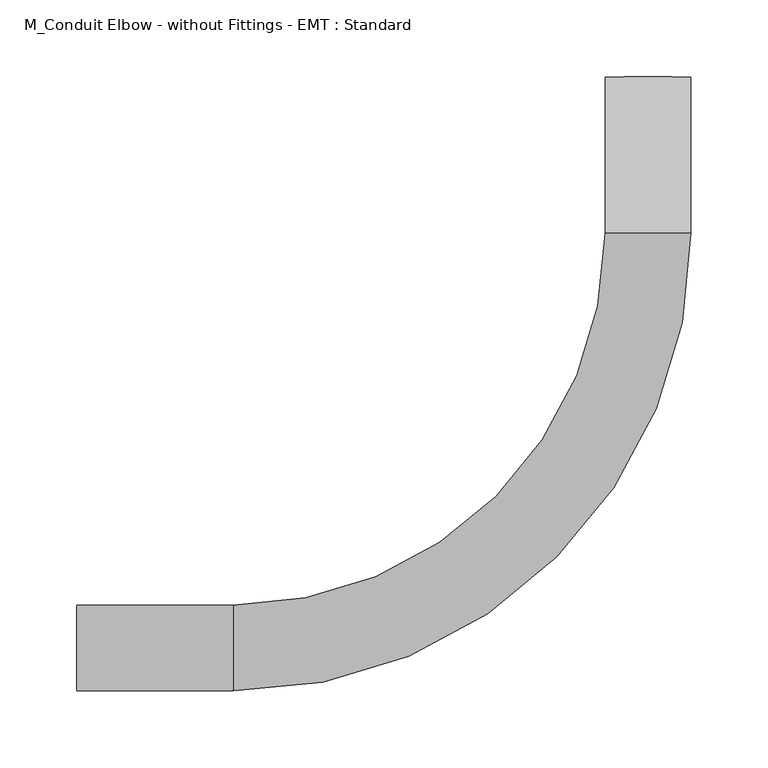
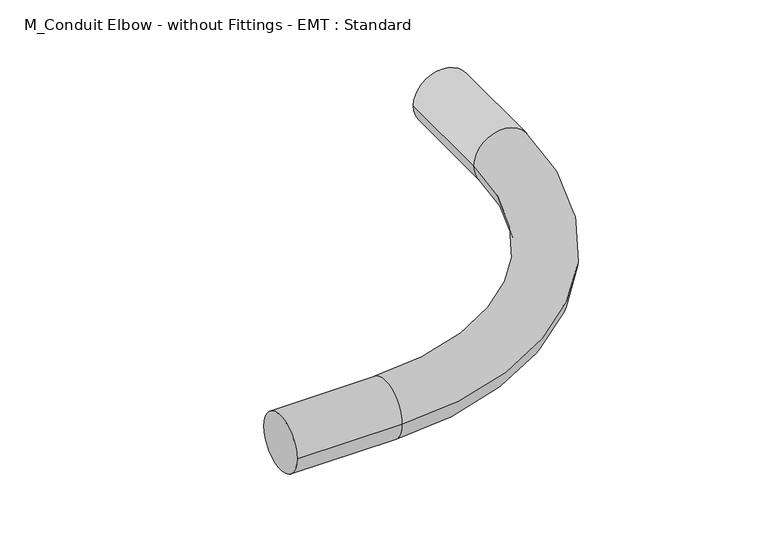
"""IFC4 building model written with IfcOpenShell, lengths in millimetres: cable carrier fitting geometry, M_Conduit Elbow - without Fittings - EMT : Standard."""

from ifc_helpers import new_model, si_unit, point, frame, origin, place, context, project, spatial, circle_curve, ellipse_curve, trimmed, source, transform, mapped, element, save
from ifc_brep_helpers import plane_surface, cylinder_surface, revolved_surface, advanced_brep


def m_conduit_elbow_without_fittings_emt_standard_11a9927b(model_context):
    return source(origin(), model_context, "Body", "AdvancedBrep", [
        advanced_brep(
        [(-370.8, -27.9019, 0.0), (-370.8, 27.9019, 0.0), (-269.2, -27.9019, 0.0), (-269.2, 27.9019, 0.0), (-27.9019, 269.2, 0.0), (27.9019, 269.2, 0.0), (27.9019, 370.8, 0.0), (-27.9019, 370.8, 0.0)],
        [
            (0, 1, circle_curve(frame((-370.8, 0.0, 0.0), z_axis=(-1.0, 0.0, 0.0), x_axis=(0.0, 1.0, 0.0)), 27.9019)),
            (1, 0, circle_curve(frame((-370.8, 0.0, 0.0), z_axis=(-1.0, 0.0, 0.0), x_axis=(0.0, 1.0, 0.0)), 27.9019)),
            (0, 2),
            (2, 3, circle_curve(frame((-269.2, 0.0, 0.0), z_axis=(-1.0, 0.0, 0.0), x_axis=(0.0, 1.0, 0.0)), 27.9019)),
            (3, 1),
            (3, 2, circle_curve(frame((-269.2, 0.0, 0.0), z_axis=(-1.0, 0.0, 0.0), x_axis=(0.0, 1.0, 0.0)), 27.9019)),
            (4, 3, circle_curve(frame((-269.2, 269.2, 0.0), z_axis=(0.0, 0.0, -1.0), x_axis=(0.0, -1.0, 0.0)), 241.2981)),
            (2, 5, circle_curve(frame((-269.2, 269.2, 0.0), z_axis=(0.0, 0.0, 1.0), x_axis=(0.0, -1.0, 0.0)), 297.1019)),
            (5, 4, circle_curve(frame((0.0, 269.2, 0.0), z_axis=(0.0, -1.0, 0.0), x_axis=(-1.0, 0.0, 0.0)), 27.9019)),
            (4, 5, circle_curve(frame((0.0, 269.2, 0.0), z_axis=(0.0, -1.0, 0.0), x_axis=(-1.0, 0.0, 0.0)), 27.9019)),
            (6, 7, circle_curve(frame((0.0, 370.8, 0.0), z_axis=(0.0, 1.0, 0.0), x_axis=(-1.0, 0.0, 0.0)), 27.9019)),
            (7, 6, circle_curve(frame((0.0, 370.8, 0.0), z_axis=(0.0, 1.0, 0.0), x_axis=(-1.0, 0.0, 0.0)), 27.9019)),
            (5, 6),
            (7, 4),
        ],
        [
            plane_surface(frame((-370.8, 0.0, 0.0), z_axis=(-1.0, 0.0, 0.0), x_axis=(0.0, 0.0, 1.0))),
            cylinder_surface(frame((-370.8, 0.0, 0.0), z_axis=(-1.0, 0.0, 0.0), x_axis=(0.0, 1.0, 0.0)), 27.9019),
            revolved_surface(trimmed(ellipse_curve(frame((-269.2, 0.0, 0.0), z_axis=(-1.0, 0.0, 0.0), x_axis=(0.0, 1.0, 0.0)), 27.9019, 27.9019), [point((-269.2, -27.9019, 0.0))], [point((-269.2, 27.9019, 0.0))], True, "CARTESIAN"), (-269.2, 269.2, 0.0), (0.0, 0.0, 1.0)),
            revolved_surface(trimmed(ellipse_curve(frame((-269.2, 0.0, 0.0), z_axis=(-1.0, 0.0, 0.0), x_axis=(0.0, 1.0, 0.0)), 27.9019, 27.9019), [point((-269.2, 27.9019, 0.0))], [point((-269.2, -27.9019, 0.0))], True, "CARTESIAN"), (-269.2, 269.2, 0.0), (0.0, 0.0, 1.0)),
            plane_surface(frame((0.0, 370.8, 0.0), z_axis=(0.0, 1.0, 0.0), x_axis=(0.0, 0.0, 1.0))),
            cylinder_surface(frame((0.0, 269.2, 0.0), z_axis=(0.0, -1.0, 0.0), x_axis=(-1.0, 0.0, 0.0)), 27.9019),
        ],
        [
            (0, [[1, 2]]),
            (1, [[-1, 3, 4, 5]]),
            (1, [[-2, -5, 6, -3]]),
            (2, [[7, -4, 8, 9]]),
            (3, [[-8, -6, -7, 10]]),
            (4, [[11, 12]]),
            (5, [[-9, 13, -12, 14]]),
            (5, [[-10, -14, -11, -13]]),
        ],
    ),
    ])


if __name__ == "__main__":
    model = new_model("IFC4")
    model_context = context("Model", 3, world=origin())
    ifc_project = project(units=[si_unit("LENGTHUNIT", "METRE", prefix="MILLI")], contexts=[model_context])
    site = spatial("IfcSite", under=ifc_project)
    building = spatial("IfcBuilding", under=site)
    placement = place(None, origin())
    m_conduit_elbow_without_fittings_emt_standard_shape = m_conduit_elbow_without_fittings_emt_standard_11a9927b(model_context)
    element("IfcCableCarrierFitting", 1, ObjectType="M_Conduit Elbow - without Fittings - EMT : Standard", at=placement, inside=building, context=model_context, shape_type="MappedRepresentation", body=[
        mapped(m_conduit_elbow_without_fittings_emt_standard_shape, transform((0.0, 0.0, 0.0), x_axis=(1.0, 0.0, 0.0), y_axis=(0.0, 1.0, 0.0), z_axis=(0.0, 0.0, 1.0))),
    ])
    save(model, "model.ifc")
